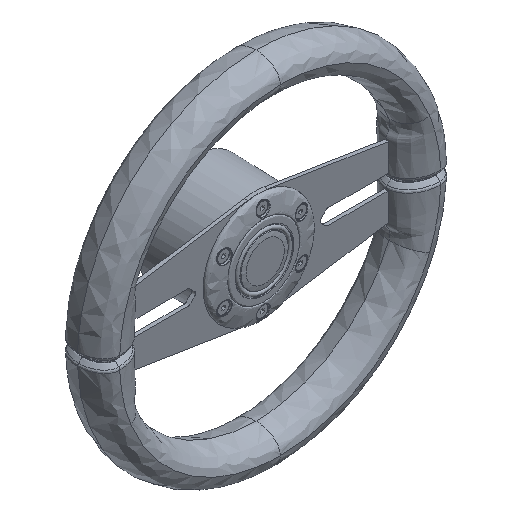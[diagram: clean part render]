
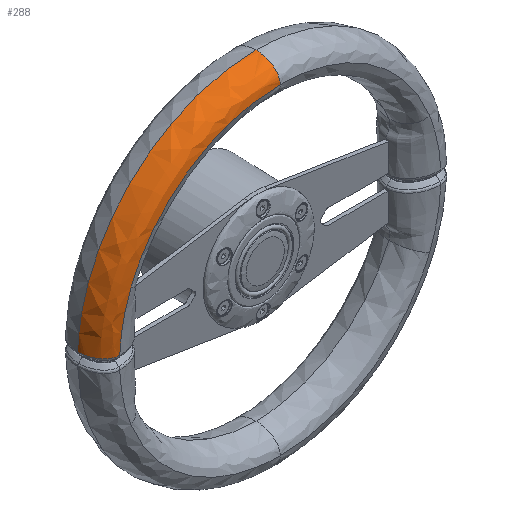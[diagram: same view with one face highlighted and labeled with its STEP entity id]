
A CAD part, isometric view. The second image highlights one B-rep face of the part: STEP entity #288.
In plain terms, the highlighted free-form (B-spline) face has degree [2, 2] with [3, 9] control points.
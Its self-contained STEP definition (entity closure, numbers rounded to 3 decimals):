
#288=ADVANCED_FACE('',(#497),#3101,.T.);
#497=FACE_OUTER_BOUND('',#717,.T.);
#717=EDGE_LOOP('',(#1218,#1219,#1220,#1221,#1222));
#1218=ORIENTED_EDGE('',*,*,#1964,.F.);
#1219=ORIENTED_EDGE('',*,*,#1960,.F.);
#1220=ORIENTED_EDGE('',*,*,#1965,.T.);
#1221=ORIENTED_EDGE('',*,*,#1966,.T.);
#1222=ORIENTED_EDGE('',*,*,#1956,.F.);
#1956=EDGE_CURVE('',#2818,#2819,#2366,.T.);
#1960=EDGE_CURVE('',#2822,#2823,#2521,.T.);
#1964=EDGE_CURVE('',#2823,#2818,#2525,.T.);
#1965=EDGE_CURVE('',#2822,#2825,#2526,.T.);
#1966=EDGE_CURVE('',#2825,#2819,#2527,.T.);
#2366=B_SPLINE_CURVE_WITH_KNOTS('',3,(#7458,#7459,#7460,#7461,#7462,#7463,
#7464,#7465,#7466,#7467,#7468,#7469),.UNSPECIFIED.,.F.,.F.,(4,2,2,2,2,4),
(0.,3.274,6.548,13.096,19.643,
26.191),.UNSPECIFIED.);
#2521=(
BOUNDED_CURVE()
B_SPLINE_CURVE(2,(#7490,#7491,#7492),.UNSPECIFIED.,.F.,.F.)
B_SPLINE_CURVE_WITH_KNOTS((3,3),(0.,6.283),.UNSPECIFIED.)
CURVE()
GEOMETRIC_REPRESENTATION_ITEM()
RATIONAL_B_SPLINE_CURVE((1.,0.827,1.))
REPRESENTATION_ITEM('')
);
#2525=(
BOUNDED_CURVE()
B_SPLINE_CURVE(3,(#7519,#7520,#7521,#7522,#7523,#7524,#7525,#7526,#7527,
#7528,#7529,#7530,#7531,#7532,#7533,#7534,#7535,#7536,#7537,#7538),
 .UNSPECIFIED.,.F.,.F.)
B_SPLINE_CURVE_WITH_KNOTS((4,2,2,2,2,2,2,2,2,4),(0.,5.941,8.911,
10.396,11.881,14.852,16.337,17.822,
23.762,42.521),.UNSPECIFIED.)
CURVE()
GEOMETRIC_REPRESENTATION_ITEM()
RATIONAL_B_SPLINE_CURVE((1.,1.,1.,1.,1.,1.,1.,1.,1.,1.,1.,1.,1.,1.,1.,1.,
1.,1.,1.,1.))
REPRESENTATION_ITEM('')
);
#2526=(
BOUNDED_CURVE()
B_SPLINE_CURVE(2,(#7539,#7540,#7541),.UNSPECIFIED.,.F.,.F.)
B_SPLINE_CURVE_WITH_KNOTS((3,3),(0.,33.),.UNSPECIFIED.)
CURVE()
GEOMETRIC_REPRESENTATION_ITEM()
RATIONAL_B_SPLINE_CURVE((1.,0.707,1.))
REPRESENTATION_ITEM('')
);
#2527=(
BOUNDED_CURVE()
B_SPLINE_CURVE(2,(#7542,#7543,#7544),.UNSPECIFIED.,.F.,.F.)
B_SPLINE_CURVE_WITH_KNOTS((3,3),(0.,270.172),.UNSPECIFIED.)
CURVE()
GEOMETRIC_REPRESENTATION_ITEM()
RATIONAL_B_SPLINE_CURVE((1.,0.72,1.))
REPRESENTATION_ITEM('')
);
#2818=VERTEX_POINT('',#7359);
#2819=VERTEX_POINT('',#7360);
#2822=VERTEX_POINT('',#7363);
#2823=VERTEX_POINT('',#7364);
#2825=VERTEX_POINT('',#7366);
#3101=(
BOUNDED_SURFACE()
B_SPLINE_SURFACE(2,2,((#5345,#5346,#5347,#5348,#5349,#5350,#5351,#5352,
#5353),(#5354,#5355,#5356,#5357,#5358,#5359,#5360,#5361,#5362),(#5363,#5364,
#5365,#5366,#5367,#5368,#5369,#5370,#5371)),.UNSPECIFIED.,.F.,.F.,.F.)
B_SPLINE_SURFACE_WITH_KNOTS((3,3),(3,2,2,2,3),(0.,280.),(0.,38.799,
77.598,116.397,155.196),.UNSPECIFIED.)
GEOMETRIC_REPRESENTATION_ITEM()
RATIONAL_B_SPLINE_SURFACE(((1.,0.707,1.,0.707,1.,
0.707,1.,0.707,1.),(0.707,0.5,0.707,
0.5,0.707,0.5,0.707,0.5,0.707),(1.,
0.707,1.,0.707,1.,0.707,1.,0.707,
1.)))
REPRESENTATION_ITEM('')
SURFACE()
);
#5345=CARTESIAN_POINT('',(-126.,-30.5,0.));
#5346=CARTESIAN_POINT('',(-112.,-30.5,0.));
#5347=CARTESIAN_POINT('',(-112.,-49.5,0.));
#5348=CARTESIAN_POINT('',(-112.,-68.5,0.));
#5349=CARTESIAN_POINT('',(-126.,-68.5,0.));
#5350=CARTESIAN_POINT('',(-140.,-68.5,0.));
#5351=CARTESIAN_POINT('',(-140.,-49.5,0.));
#5352=CARTESIAN_POINT('',(-140.,-30.5,0.));
#5353=CARTESIAN_POINT('',(-126.,-30.5,0.));
#5354=CARTESIAN_POINT('',(-126.,-30.5,126.));
#5355=CARTESIAN_POINT('',(-112.,-30.5,112.));
#5356=CARTESIAN_POINT('',(-112.,-49.5,112.));
#5357=CARTESIAN_POINT('',(-112.,-68.5,112.));
#5358=CARTESIAN_POINT('',(-126.,-68.5,126.));
#5359=CARTESIAN_POINT('',(-140.,-68.5,140.));
#5360=CARTESIAN_POINT('',(-140.,-49.5,140.));
#5361=CARTESIAN_POINT('',(-140.,-30.5,140.));
#5362=CARTESIAN_POINT('',(-126.,-30.5,126.));
#5363=CARTESIAN_POINT('',(0.,-30.5,126.));
#5364=CARTESIAN_POINT('',(0.,-30.5,112.));
#5365=CARTESIAN_POINT('',(0.,-49.5,112.));
#5366=CARTESIAN_POINT('',(0.,-68.5,112.));
#5367=CARTESIAN_POINT('',(0.,-68.5,126.));
#5368=CARTESIAN_POINT('',(0.,-68.5,140.));
#5369=CARTESIAN_POINT('',(0.,-49.5,140.));
#5370=CARTESIAN_POINT('',(0.,-30.5,140.));
#5371=CARTESIAN_POINT('',(0.,-30.5,126.));
#7359=CARTESIAN_POINT('',(-125.901,-68.5,5.));
#7360=CARTESIAN_POINT('',(-139.911,-49.5,5.));
#7363=CARTESIAN_POINT('',(0.,-68.5,126.));
#7364=CARTESIAN_POINT('',(-117.151,-68.5,46.387));
#7366=CARTESIAN_POINT('',(0.,-49.5,140.));
#7458=CARTESIAN_POINT('',(-125.901,-68.5,5.));
#7459=CARTESIAN_POINT('',(-126.988,-68.501,5.));
#7460=CARTESIAN_POINT('',(-128.073,-68.327,5.));
#7461=CARTESIAN_POINT('',(-130.143,-67.666,5.));
#7462=CARTESIAN_POINT('',(-131.127,-67.182,5.));
#7463=CARTESIAN_POINT('',(-133.85,-65.384,5.));
#7464=CARTESIAN_POINT('',(-135.345,-63.741,5.));
#7465=CARTESIAN_POINT('',(-137.675,-60.076,5.));
#7466=CARTESIAN_POINT('',(-138.521,-58.046,5.));
#7467=CARTESIAN_POINT('',(-139.638,-53.847,5.));
#7468=CARTESIAN_POINT('',(-139.91,-51.672,5.));
#7469=CARTESIAN_POINT('',(-139.911,-49.5,5.));
#7490=CARTESIAN_POINT('',(0.,-68.5,126.));
#7491=CARTESIAN_POINT('',(-85.627,-68.5,126.));
#7492=CARTESIAN_POINT('',(-117.151,-68.5,46.387));
#7519=CARTESIAN_POINT('',(-117.151,-68.5,46.387));
#7520=CARTESIAN_POINT('',(-117.879,-68.5,44.546));
#7521=CARTESIAN_POINT('',(-118.565,-68.5,42.689));
#7522=CARTESIAN_POINT('',(-119.526,-68.5,39.88));
#7523=CARTESIAN_POINT('',(-119.836,-68.5,38.94));
#7524=CARTESIAN_POINT('',(-120.284,-68.5,37.524));
#7525=CARTESIAN_POINT('',(-120.43,-68.5,37.052));
#7526=CARTESIAN_POINT('',(-120.717,-68.5,36.105));
#7527=CARTESIAN_POINT('',(-120.858,-68.5,35.63));
#7528=CARTESIAN_POINT('',(-121.272,-68.5,34.205));
#7529=CARTESIAN_POINT('',(-121.537,-68.5,33.251));
#7530=CARTESIAN_POINT('',(-121.918,-68.5,31.816));
#7531=CARTESIAN_POINT('',(-122.042,-68.5,31.337));
#7532=CARTESIAN_POINT('',(-122.284,-68.5,30.378));
#7533=CARTESIAN_POINT('',(-122.403,-68.5,29.897));
#7534=CARTESIAN_POINT('',(-122.98,-68.5,27.491));
#7535=CARTESIAN_POINT('',(-123.397,-68.5,25.556));
#7536=CARTESIAN_POINT('',(-124.94,-68.5,17.472));
#7537=CARTESIAN_POINT('',(-125.653,-68.5,11.245));
#7538=CARTESIAN_POINT('',(-125.901,-68.5,5.));
#7539=CARTESIAN_POINT('',(0.,-68.5,126.));
#7540=CARTESIAN_POINT('',(0.,-68.5,140.));
#7541=CARTESIAN_POINT('',(0.,-49.5,140.));
#7542=CARTESIAN_POINT('',(0.,-49.5,140.));
#7543=CARTESIAN_POINT('',(-135.086,-49.5,140.));
#7544=CARTESIAN_POINT('',(-139.911,-49.5,5.));
